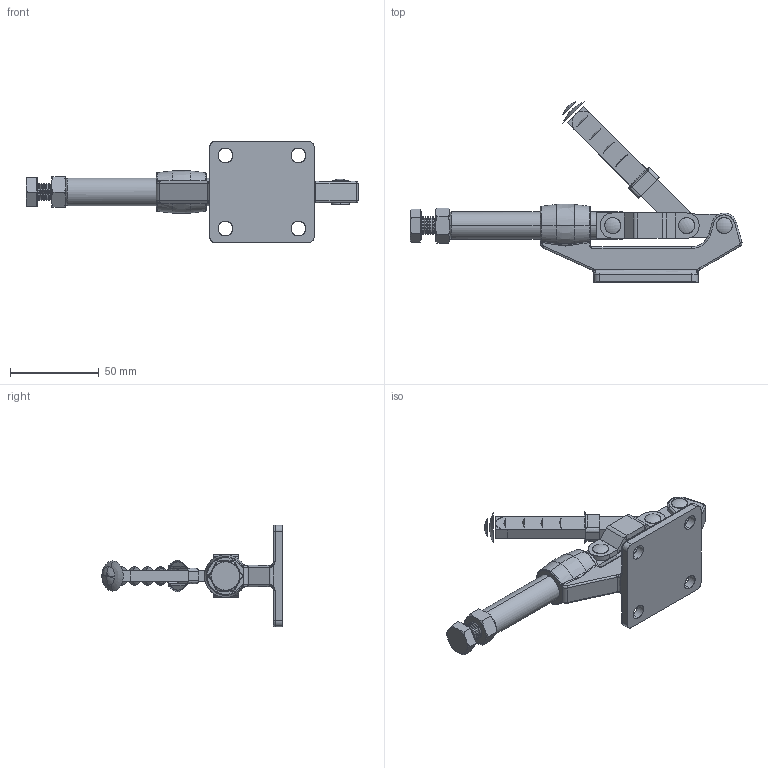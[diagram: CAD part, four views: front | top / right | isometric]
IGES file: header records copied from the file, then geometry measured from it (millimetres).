
Start section: SolidWorks IGES file using analytic representation for surfaces
Global section: file name: \\KOUGU-SV2\share\solidworks\工具事業部\坂入用\受け渡し\2026.2.19\ISK-SL2000\ISK-SL2000-T1.IGS; native system: SolidWorks 2026; preprocessor: SolidWorks 2026; author: kougu; date: 260219.143536; units: millimetre
Bounding box: 186.9 x 101.48 x 57.2 mm (x, y, z)
Surface area: 39794.7 mm2 (no closed solid volume)
Topology: 0 solids, 0 shells, 560 faces, 11404 edges, 14018 vertices
Faces by surface type: revolution 335, bspline 225
